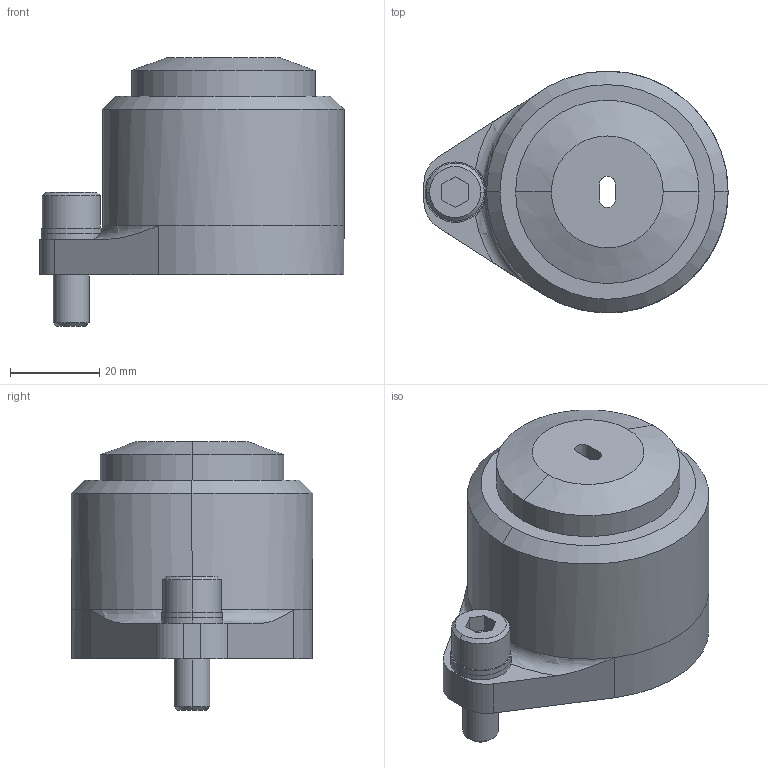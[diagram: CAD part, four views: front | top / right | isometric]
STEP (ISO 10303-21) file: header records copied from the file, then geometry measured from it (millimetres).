
FILE_DESCRIPTION(/* description */ (''),/* implementation_level */ '2;1');
FILE_NAME(/* name */ '3d_spre16-g-p7.00-w3.50-k0_05423_r00.stp',/* time_stamp */ '2011-01-10T14:10:06+09:00',/* author */ ('MISUMI'),/* organization */ (''),/* preprocessor_version */ 'ST-DEVELOPER v11',/* originating_system */ 'UGS - NX 5.0',/* authorisation */ '');
FILE_SCHEMA (('CONFIG_CONTROL_DESIGN'));
Length unit declared in the file: millimetre
Products named in the file (1): 3d_spre16-g-p7.00-w3.50-k0_05423_r00
Bounding box: 68 x 54 x 60.1 mm (x, y, z)
Volume: 92587.6 mm3; surface area: 35459.9 mm2
Topology: 6 solids, 6 shells, 76 faces, 170 edges, 110 vertices
Faces by surface type: cylinder 38, plane 28, cone 8, torus 2
Entity records: 2254 total; most frequent: DIRECTION 408, CARTESIAN_POINT 377, ORIENTED_EDGE 340, EDGE_CURVE 170, AXIS2_PLACEMENT_3D 165, VERTEX_POINT 110, EDGE_LOOP 92, CIRCLE 88
